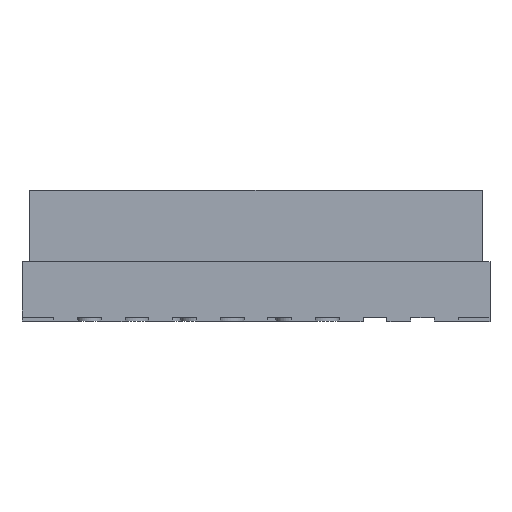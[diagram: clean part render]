
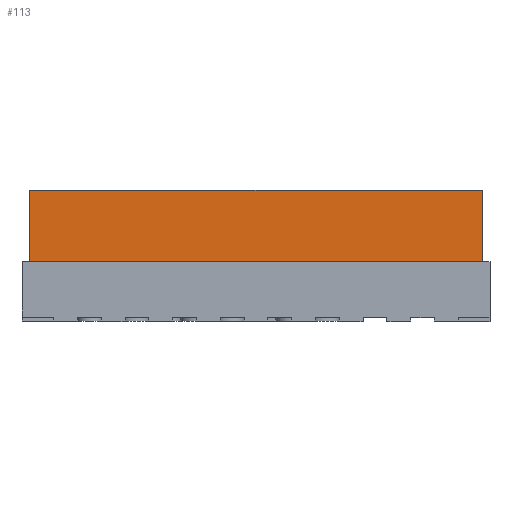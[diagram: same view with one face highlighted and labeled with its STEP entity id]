
A CAD part, top view. The second image highlights one B-rep face of the part: STEP entity #113.
In plain terms, the highlighted planar face has unit normal (0, 0, 1).
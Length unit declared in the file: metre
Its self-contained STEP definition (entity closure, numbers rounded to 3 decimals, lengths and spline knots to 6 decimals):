
#113=ADVANCED_FACE('',(#325),#326,.T.);
#325=FACE_OUTER_BOUND('',#701,.T.);
#326=PLANE('',#702);
#701=EDGE_LOOP('',(#1567,#1568,#1569,#1570));
#702=AXIS2_PLACEMENT_3D('',#1571,#1572,#1573);
#1567=ORIENTED_EDGE('',*,*,#3432,.T.);
#1568=ORIENTED_EDGE('',*,*,#3412,.F.);
#1569=ORIENTED_EDGE('',*,*,#3433,.T.);
#1570=ORIENTED_EDGE('',*,*,#3434,.T.);
#1571=CARTESIAN_POINT('',(0.0,0.00115,-0.0001));
#1572=DIRECTION('',(0.0,0.,1.0));
#1573=DIRECTION('',(0.0,1.0,0.));
#3412=EDGE_CURVE('',#4814,#4815,#4816,.T.);
#3432=EDGE_CURVE('',#4850,#4815,#4851,.T.);
#3433=EDGE_CURVE('',#4814,#4852,#4853,.F.);
#3434=EDGE_CURVE('',#4852,#4850,#4854,.T.);
#4814=VERTEX_POINT('',#6926);
#4815=VERTEX_POINT('',#6927);
#4816=LINE('',#6928,#6929);
#4850=VERTEX_POINT('',#6982);
#4851=LINE('',#6983,#6984);
#4852=VERTEX_POINT('',#6985);
#4853=LINE('',#6986,#6987);
#4854=LINE('',#6988,#6989);
#6926=CARTESIAN_POINT('',(-0.0001,0.0007,-0.0001));
#6927=CARTESIAN_POINT('',(-0.0058,0.0007,-0.0001));
#6928=CARTESIAN_POINT('',(-0.002225,0.0007,-0.0001));
#6929=VECTOR('',#8682,1.0);
#6982=CARTESIAN_POINT('',(-0.0058,0.0016,-0.0001));
#6983=CARTESIAN_POINT('',(-0.0058,0.0007,-0.0001));
#6984=VECTOR('',#8702,1.0);
#6985=CARTESIAN_POINT('',(-0.0001,0.0016,-0.0001));
#6986=CARTESIAN_POINT('',(-0.0001,0.0007,-0.0001));
#6987=VECTOR('',#8703,1.0);
#6988=CARTESIAN_POINT('',(0.0,0.0016,-0.0001));
#6989=VECTOR('',#8704,1.0);
#8682=DIRECTION('',(-1.0,0.0,0.0));
#8702=DIRECTION('',(0.0,-1.0,0.));
#8703=DIRECTION('',(0.0,-1.0,0.));
#8704=DIRECTION('',(-1.0,-0.0,-0.0));
